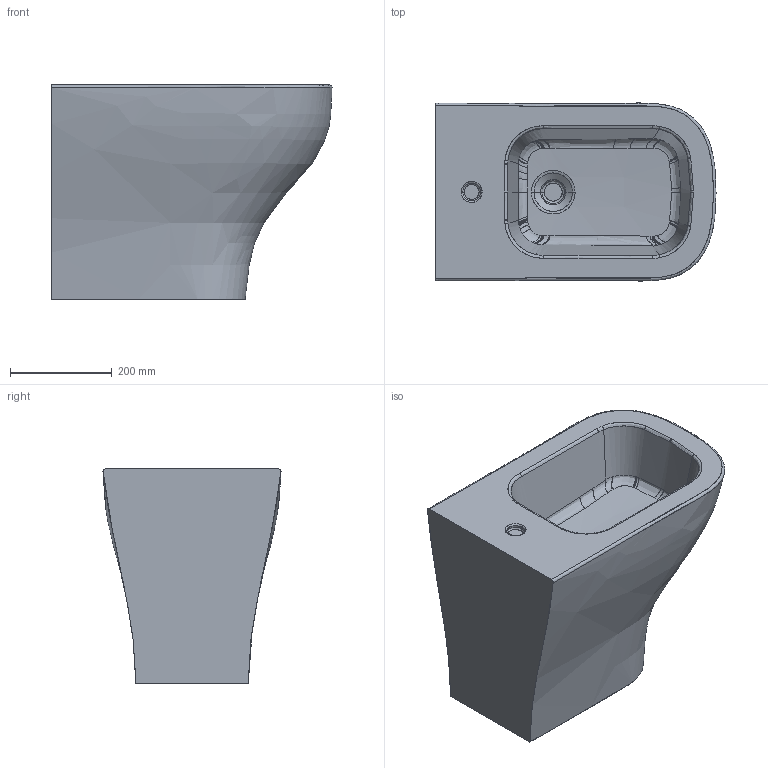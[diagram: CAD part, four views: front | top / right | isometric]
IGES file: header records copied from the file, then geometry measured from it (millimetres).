
Start section: START RECORD GO HERE.
Global section: file name: Bidet terra plus.igs; native system: IBM CATIA IGES - CATIA Version 5 Release 17 ; preprocessor: CATIA Version 5 Release 17 ; author: Luca; organization: PC-Luca; date: 20131019.111544; units: millimetre
Bounding box: 549.29 x 349.18 x 420 mm (x, y, z)
Surface area: 962702.2 mm2 (no closed solid volume)
Topology: 0 solids, 0 shells, 114 faces, 636 edges, 636 vertices
Faces by surface type: bspline 114
